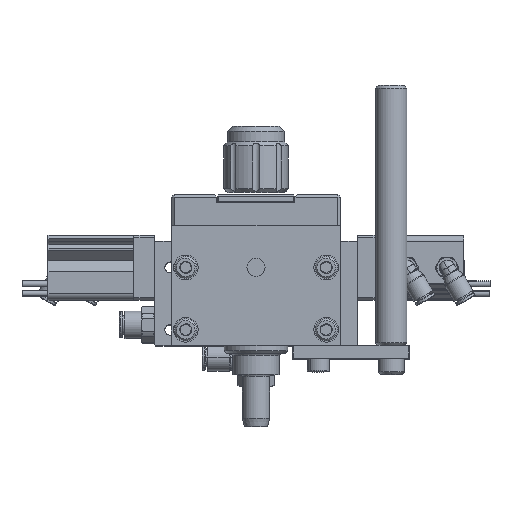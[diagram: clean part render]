
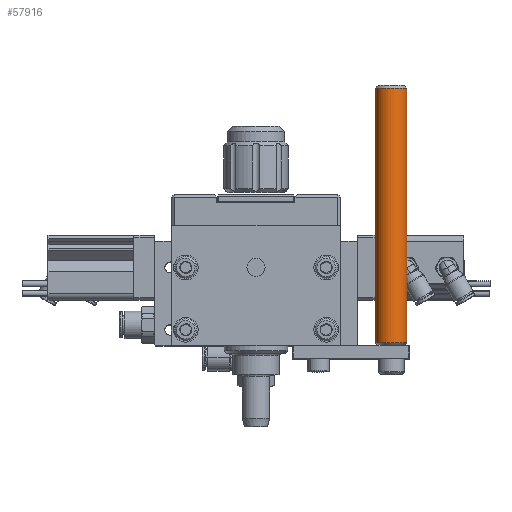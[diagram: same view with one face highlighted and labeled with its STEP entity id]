
A CAD part, top view. The second image highlights one B-rep face of the part: STEP entity #57916.
In plain terms, the highlighted cylindrical face has radius 6 mm (diameter 12 mm), a partial arc.
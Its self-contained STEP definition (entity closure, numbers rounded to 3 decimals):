
#1237 = ORIENTED_EDGE ( 'NONE', *, *, #31714, .T. ) ;
#5848 = DIRECTION ( 'NONE',  ( 0., 1., 0. ) ) ;
#7562 = DIRECTION ( 'NONE',  ( 1., 0., 0. ) ) ;
#9551 = CIRCLE ( 'NONE', #27645, 6. ) ;
#11215 = CARTESIAN_POINT ( 'NONE',  ( 46., 99., 130. ) ) ;
#11750 = DIRECTION ( 'NONE',  ( -1., 0., 0. ) ) ;
#12821 = FACE_OUTER_BOUND ( 'NONE', #17034, .T. ) ;
#17034 = EDGE_LOOP ( 'NONE', ( #28576, #1237, #20517, #51623 ) ) ;
#17616 = CARTESIAN_POINT ( 'NONE',  ( 46., 1., 130. ) ) ;
#18824 = CARTESIAN_POINT ( 'NONE',  ( 52., 0., 130. ) ) ;
#20517 = ORIENTED_EDGE ( 'NONE', *, *, #29512, .T. ) ;
#20989 = VERTEX_POINT ( 'NONE', #36850 ) ;
#23081 = CIRCLE ( 'NONE', #45982, 6. ) ;
#23458 = DIRECTION ( 'NONE',  ( 0., 1., 0. ) ) ;
#27645 = AXIS2_PLACEMENT_3D ( 'NONE', #45073, #67939, #50306 ) ;
#28576 = ORIENTED_EDGE ( 'NONE', *, *, #55464, .F. ) ;
#29124 = CARTESIAN_POINT ( 'NONE',  ( 58., 0., 130. ) ) ;
#29497 = CARTESIAN_POINT ( 'NONE',  ( 52., 1., 130. ) ) ;
#29512 = EDGE_CURVE ( 'NONE', #53646, #20989, #41506, .T. ) ;
#29594 = VERTEX_POINT ( 'NONE', #17616 ) ;
#31714 = EDGE_CURVE ( 'NONE', #29594, #53646, #23081, .T. ) ;
#35501 = DIRECTION ( 'NONE',  ( 0., 1., 0. ) ) ;
#35562 = LINE ( 'NONE', #52126, #55922 ) ;
#36850 = CARTESIAN_POINT ( 'NONE',  ( 58., 99., 130. ) ) ;
#37900 = DIRECTION ( 'NONE',  ( 0., 1., 0. ) ) ;
#41506 = LINE ( 'NONE', #29124, #43464 ) ;
#43464 = VECTOR ( 'NONE', #35501, 1000. ) ;
#44720 = AXIS2_PLACEMENT_3D ( 'NONE', #18824, #37900, #7562 ) ;
#45073 = CARTESIAN_POINT ( 'NONE',  ( 52., 99., 130. ) ) ;
#45982 = AXIS2_PLACEMENT_3D ( 'NONE', #29497, #23458, #11750 ) ;
#50306 = DIRECTION ( 'NONE',  ( -1., 0., 0. ) ) ;
#51623 = ORIENTED_EDGE ( 'NONE', *, *, #65339, .T. ) ;
#52126 = CARTESIAN_POINT ( 'NONE',  ( 46., 0., 130. ) ) ;
#52885 = CARTESIAN_POINT ( 'NONE',  ( 58., 1., 130. ) ) ;
#53646 = VERTEX_POINT ( 'NONE', #52885 ) ;
#55464 = EDGE_CURVE ( 'NONE', #29594, #70177, #35562, .T. ) ;
#55922 = VECTOR ( 'NONE', #5848, 1000. ) ;
#57916 = ADVANCED_FACE ( 'NONE', ( #12821 ), #70374, .T. ) ;
#65339 = EDGE_CURVE ( 'NONE', #20989, #70177, #9551, .T. ) ;
#67939 = DIRECTION ( 'NONE',  ( 0., -1., 0. ) ) ;
#70177 = VERTEX_POINT ( 'NONE', #11215 ) ;
#70374 = CYLINDRICAL_SURFACE ( 'NONE', #44720, 6. ) ;
